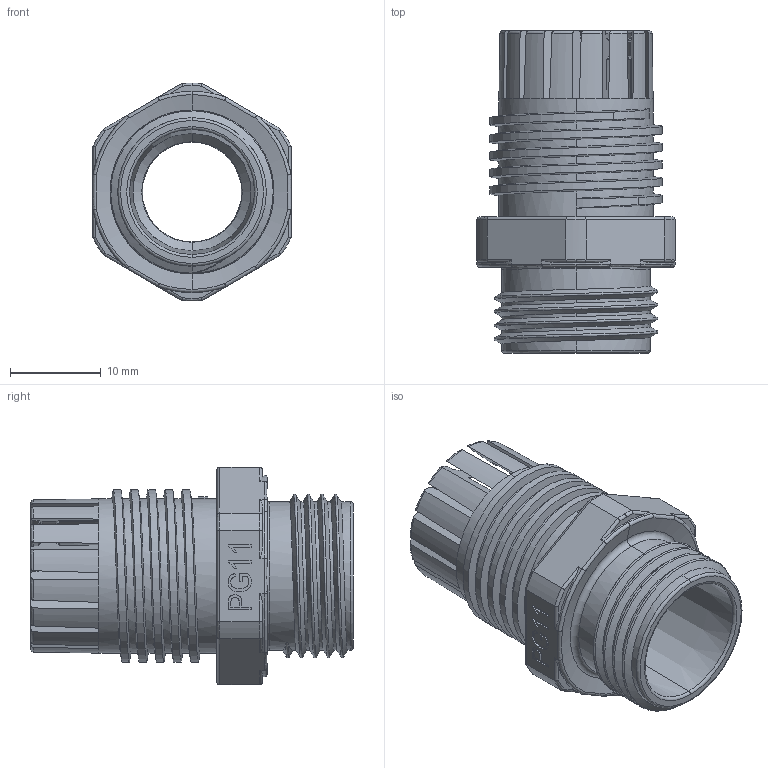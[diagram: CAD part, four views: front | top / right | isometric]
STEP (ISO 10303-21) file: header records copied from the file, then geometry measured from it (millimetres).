
FILE_DESCRIPTION (( 'STEP AP214' ), '1' );
FILE_NAME ('plc-pg-11-00.00.001 昢膼瘔 (PG11) #base (PG11)#.STEP', '2024-04-24T08:01:10', ( '' ), ( '' ), 'SwSTEP 2.0', 'SolidWorks 2021', '' );
FILE_SCHEMA (( 'AUTOMOTIVE_DESIGN' ));
Length unit declared in the file: millimetre
Products named in the file (1): plc-pg-11-00.00.001 昢膼瘔 (PG11) #base (PG11)#
Bounding box: 21.8 x 35.5 x 24 mm (x, y, z)
Volume: 3942.7 mm3; surface area: 5112.8 mm2
Topology: 1 solids, 1 shells, 410 faces, 1096 edges, 698 vertices
Faces by surface type: plane 162, cone 79, cylinder 72, torus 60, bspline 37
Entity records: 17162 total; most frequent: CARTESIAN_POINT 6807, ORIENTED_EDGE 2192, DIRECTION 1686, EDGE_CURVE 1096, VERTEX_POINT 698, AXIS2_PLACEMENT_3D 647, EDGE_LOOP 422, FACE_OUTER_BOUND 410
